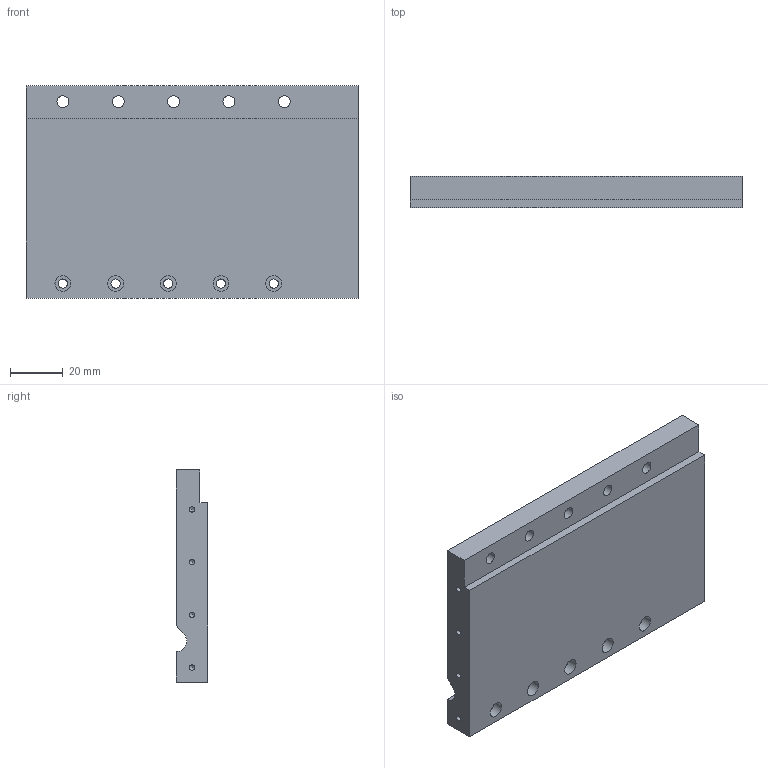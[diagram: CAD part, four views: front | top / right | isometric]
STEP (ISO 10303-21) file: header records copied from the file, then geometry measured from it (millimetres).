
FILE_DESCRIPTION(/* description */ (''),/* implementation_level */ '2;1');
FILE_NAME(/* name */ 'C:\Users\strothej\Documents\ActualDocuments\MicroscopeParts\TwoPhotonSystem\ScanningMechanics\v34\Drawings\Enclosure_Panel1.stp',/* time_stamp */ '2017-09-11T12:08:30-07:00',/* author */ ('strothej'),/* organization */ (''),/* preprocessor_version */ 'ST-DEVELOPER v16.1',/* originating_system */ 'Autodesk Inventor 2016',/* authorisation */ '');
FILE_SCHEMA (('AUTOMOTIVE_DESIGN { 1 0 10303 214 3 1 1 }'));
Length unit declared in the file: millimetre
Products named in the file (1): Enclosure_Panel1
Bounding box: 126 x 12 x 80.5 mm (x, y, z)
Volume: 110351.5 mm3; surface area: 27848.6 mm2
Topology: 1 solids, 1 shells, 55 faces, 122 edges, 79 vertices
Faces by surface type: cylinder 28, plane 20, cone 7
Full cylindrical faces by diameter (mm): 2.013 x4, 3.5 x5, 4.134 x3, 4.5 x5, 6 x5, 8 x5
Entity records: 1367 total; most frequent: DIRECTION 249, CARTESIAN_POINT 209, ORIENTED_EDGE 162, EDGE_LOOP 119, AXIS2_PLACEMENT_3D 112, EDGE_CURVE 81, VERTEX_POINT 72, FACE_BOUND 64
